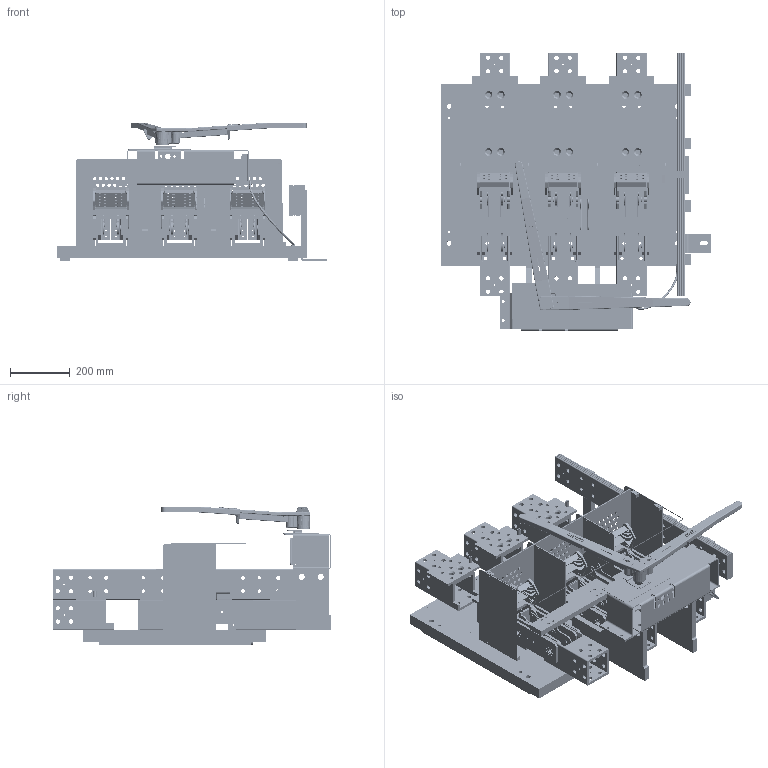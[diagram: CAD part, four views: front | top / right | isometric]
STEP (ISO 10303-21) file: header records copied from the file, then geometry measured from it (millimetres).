
FILE_DESCRIPTION(/* description */ (''),/* implementation_level */ '2;1');
FILE_NAME(/* name */ 'H:\switches\3d-templates\catalog-switches-iges-files\catalog-SLB4413N.stp',/* time_stamp */ '2022-03-11T16:07:38-06:00',/* author */ ('MKingston'),/* organization */ (''),/* preprocessor_version */ 'ST-DEVELOPER v18.1',/* originating_system */ 'Autodesk Inventor 2022',/* authorisation */ '');
FILE_SCHEMA (('AUTOMOTIVE_DESIGN { 1 0 10303 214 3 1 1 }'));
Products named in the file (46): Assembly56; catalog-SLB4413N; 727; 701-b; 702-CN; 703-b; 704; CATALOG-4000-blade-assy; 705-b; 705-a; 705-c; 67-j; 69-gc3; 69-gd3; 67-fc3; 68-M; 237; 230-a; 708-arc-chute-assy; 50-ql; 50-qr; 709; 246-f; 257-c; 672-a; slb-barrier-assembly; 257-b; 257-d; 178-c; 178-b; 820-bw1; 221-RP,R3; 820-fw3; 4000-SLB-NEUTRAL-NO-GFI; 676-x; 677-g; 675-h; 678-s; 672-E; wire-connector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
Assembly tree (91 placements, depth 4):
  Assembly56
    catalog-SLB4413N
      727
      701-b  x3
      702-CN  x3
      703-b  x3
      704  x6
      CATALOG-4000-blade-assy  x3
        705-c
        705-b
        67-j
        705-a
        67-fc3
        69-gc3
        69-gd3
        68-M
      237
      230-a
      708-arc-chute-assy  x3
        50-ql
        50-qr
        709
      246-f  x2
      257-c
      672-a  x2
      slb-barrier-assembly
        257-b  x4
        257-d
        178-c  x4
        178-b  x4
      820-bw1
      221-RP,R3
      820-fw3
      4000-SLB-NEUTRAL-NO-GFI
        676-x  x8
        677-g  x2
        675-h  x4
        678-s
      672-E
      wire-connector  x2
      SLB3413.Harness1
        SLB3413.Harness1_1
      67-ZBA  x3
      223-d-transparent
      223-d-transparent-red
      223-FE
Bounding box: 898.46 x 928.4 x 463.02 mm (x, y, z)
Volume: 35671685.5 mm3; surface area: 6420987.6 mm2
Topology: 113 solids, 117 shells, 4112 faces, 10982 edges, 7214 vertices
Faces by surface type: cylinder 1902, plane 1899, bspline 165, cone 86, torus 60
Full cylindrical faces by diameter (mm): 1.702 x8, 3.302 x14, 3.454 x4, 3.556 x8, 3.569 x14, 3.683 x4, 3.962 x4, 4.343 x84, 4.496 x36, 4.762 x4, 4.775 x8, 4.801 x4, 4.902 x8, 4.928 x16, 4.978 x30, 5.08 x2, 5.537 x2, 5.556 x1, 5.563 x6, 5.791 x12, 6.35 x10, 6.528 x57, 7.144 x12, 7.798 x6, 7.938 x6, 8.331 x2, 8.687 x2, 8.738 x2, 9.525 x3, 9.601 x2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
Entity records: 75973 total; most frequent: CARTESIAN_POINT 20369, DIRECTION 10991, ORIENTED_EDGE 10922, EDGE_CURVE 5468, AXIS2_PLACEMENT_3D 3944, VERTEX_POINT 3581, LINE 3103, VECTOR 3103
